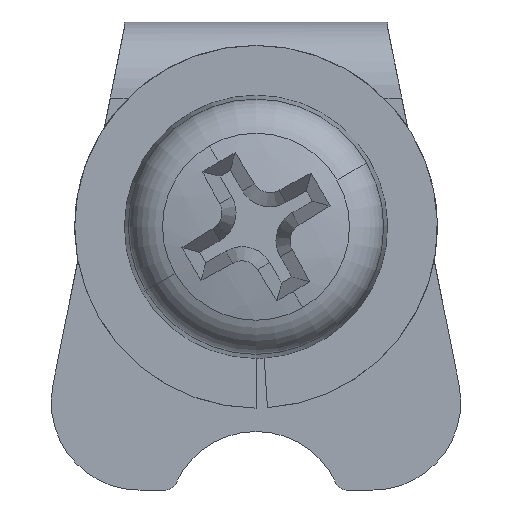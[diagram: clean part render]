
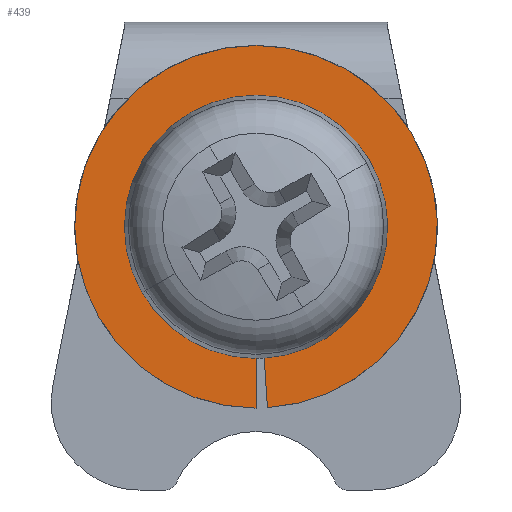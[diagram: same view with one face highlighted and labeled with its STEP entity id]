
A CAD part, front view. The second image highlights one B-rep face of the part: STEP entity #439.
In plain terms, the highlighted planar face has unit normal (0, -1, 0).
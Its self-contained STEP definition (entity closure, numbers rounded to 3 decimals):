
#31 = VERTEX_POINT ( 'NONE', #1466 ) ;
#39 = EDGE_LOOP ( 'NONE', ( #878, #1176, #1315, #1942, #743, #1797, #1469 ) ) ;
#49 = AXIS2_PLACEMENT_3D ( 'NONE', #1347, #1974, #1195 ) ;
#78 = CIRCLE ( 'NONE', #1233, 2.25 ) ;
#206 = CIRCLE ( 'NONE', #870, 3.1 ) ;
#277 = AXIS2_PLACEMENT_3D ( 'NONE', #630, #1883, #1737 ) ;
#314 = DIRECTION ( 'NONE',  ( 0.866, 0., 0.5 ) ) ;
#396 = VECTOR ( 'NONE', #434, 1000. ) ;
#399 = CARTESIAN_POINT ( 'NONE',  ( 0., -1.6, -3.1 ) ) ;
#431 = CARTESIAN_POINT ( 'NONE',  ( -1.949, -1.6, -1.125 ) ) ;
#434 = DIRECTION ( 'NONE',  ( 0., 0., 1. ) ) ;
#438 = CARTESIAN_POINT ( 'NONE',  ( 0., -1.6, 0. ) ) ;
#439 = ADVANCED_FACE ( 'NONE', ( #1268 ), #1607, .F. ) ;
#556 = VERTEX_POINT ( 'NONE', #399 ) ;
#598 = DIRECTION ( 'NONE',  ( 1., 0., 0. ) ) ;
#609 = DIRECTION ( 'NONE',  ( 0., -1., 0. ) ) ;
#615 = EDGE_CURVE ( 'NONE', #31, #1921, #1821, .T. ) ;
#630 = CARTESIAN_POINT ( 'NONE',  ( -3.1, -1.6, 3.1 ) ) ;
#723 = EDGE_CURVE ( 'NONE', #556, #1494, #206, .T. ) ;
#725 = DIRECTION ( 'NONE',  ( 0.063, 0., -0.998 ) ) ;
#743 = ORIENTED_EDGE ( 'NONE', *, *, #1391, .T. ) ;
#788 = DIRECTION ( 'NONE',  ( 0.866, 0., 0.5 ) ) ;
#807 = EDGE_CURVE ( 'NONE', #1921, #1652, #78, .T. ) ;
#870 = AXIS2_PLACEMENT_3D ( 'NONE', #1682, #1533, #598 ) ;
#878 = ORIENTED_EDGE ( 'NONE', *, *, #1115, .T. ) ;
#1020 = DIRECTION ( 'NONE',  ( 0.866, 0., 0.5 ) ) ;
#1073 = LINE ( 'NONE', #1663, #1289 ) ;
#1100 = CARTESIAN_POINT ( 'NONE',  ( 0., -1.6, -2.25 ) ) ;
#1106 = CIRCLE ( 'NONE', #49, 3.1 ) ;
#1115 = EDGE_CURVE ( 'NONE', #556, #1652, #1833, .T. ) ;
#1146 = CARTESIAN_POINT ( 'NONE',  ( 0., -1.6, 0. ) ) ;
#1159 = VERTEX_POINT ( 'NONE', #1979 ) ;
#1176 = ORIENTED_EDGE ( 'NONE', *, *, #807, .F. ) ;
#1195 = DIRECTION ( 'NONE',  ( 1., 0., 0. ) ) ;
#1233 = AXIS2_PLACEMENT_3D ( 'NONE', #438, #609, #788 ) ;
#1265 = AXIS2_PLACEMENT_3D ( 'NONE', #1146, #1314, #1020 ) ;
#1268 = FACE_OUTER_BOUND ( 'NONE', #39, .T. ) ;
#1289 = VECTOR ( 'NONE', #725, 1000. ) ;
#1314 = DIRECTION ( 'NONE',  ( 0., -1., 0. ) ) ;
#1315 = ORIENTED_EDGE ( 'NONE', *, *, #615, .F. ) ;
#1334 = CARTESIAN_POINT ( 'NONE',  ( 0., -1.6, 3.1 ) ) ;
#1347 = CARTESIAN_POINT ( 'NONE',  ( 0., -1.6, 0. ) ) ;
#1350 = AXIS2_PLACEMENT_3D ( 'NONE', #1734, #1715, #314 ) ;
#1377 = CARTESIAN_POINT ( 'NONE',  ( 0., -1.6, 3.1 ) ) ;
#1391 = EDGE_CURVE ( 'NONE', #1788, #1159, #1073, .T. ) ;
#1466 = CARTESIAN_POINT ( 'NONE',  ( 1.949, -1.6, 1.125 ) ) ;
#1469 = ORIENTED_EDGE ( 'NONE', *, *, #723, .F. ) ;
#1494 = VERTEX_POINT ( 'NONE', #1334 ) ;
#1533 = DIRECTION ( 'NONE',  ( 0., 1., 0. ) ) ;
#1607 = PLANE ( 'NONE',  #277 ) ;
#1617 = EDGE_CURVE ( 'NONE', #1788, #31, #1714, .T. ) ;
#1652 = VERTEX_POINT ( 'NONE', #1100 ) ;
#1663 = CARTESIAN_POINT ( 'NONE',  ( -0.206, -1.6, 3.282 ) ) ;
#1682 = CARTESIAN_POINT ( 'NONE',  ( 0., -1.6, 0. ) ) ;
#1699 = EDGE_CURVE ( 'NONE', #1494, #1159, #1106, .T. ) ;
#1714 = CIRCLE ( 'NONE', #1350, 2.25 ) ;
#1715 = DIRECTION ( 'NONE',  ( 0., -1., 0. ) ) ;
#1734 = CARTESIAN_POINT ( 'NONE',  ( 0., -1.6, 0. ) ) ;
#1737 = DIRECTION ( 'NONE',  ( 1., 0., 0. ) ) ;
#1788 = VERTEX_POINT ( 'NONE', #1931 ) ;
#1797 = ORIENTED_EDGE ( 'NONE', *, *, #1699, .F. ) ;
#1821 = CIRCLE ( 'NONE', #1265, 2.25 ) ;
#1833 = LINE ( 'NONE', #1377, #396 ) ;
#1883 = DIRECTION ( 'NONE',  ( 0., 1., 0. ) ) ;
#1921 = VERTEX_POINT ( 'NONE', #431 ) ;
#1931 = CARTESIAN_POINT ( 'NONE',  ( 0.141, -1.6, -2.246 ) ) ;
#1942 = ORIENTED_EDGE ( 'NONE', *, *, #1617, .F. ) ;
#1974 = DIRECTION ( 'NONE',  ( 0., 1., 0. ) ) ;
#1979 = CARTESIAN_POINT ( 'NONE',  ( 0.195, -1.6, -3.094 ) ) ;
